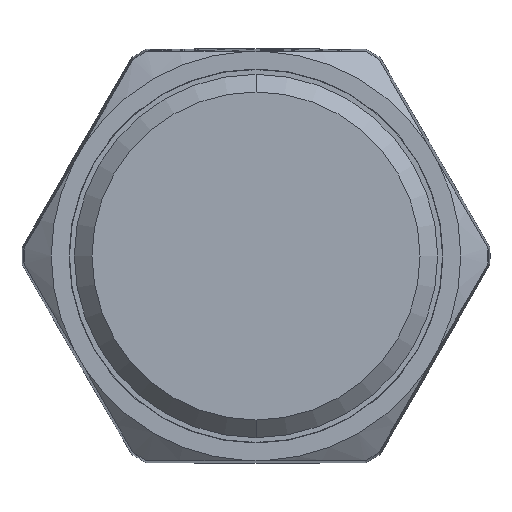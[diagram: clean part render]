
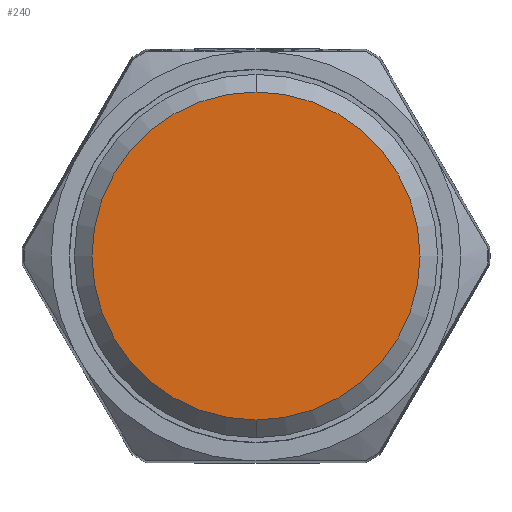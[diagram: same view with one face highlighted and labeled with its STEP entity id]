
A CAD part, front view. The second image highlights one B-rep face of the part: STEP entity #240.
In plain terms, the highlighted planar face has unit normal (0, -1, 0).
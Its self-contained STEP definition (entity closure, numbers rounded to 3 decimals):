
#240 = ADVANCED_FACE ( 'NONE', ( #3497 ), #3498, .F. ) ;
#371 = ORIENTED_EDGE ( 'NONE', *, *, #3318, .T. ) ;
#419 = EDGE_LOOP ( 'NONE', ( #371, #1752 ) ) ;
#933 = VERTEX_POINT ( 'NONE', #2941 ) ;
#951 = VERTEX_POINT ( 'NONE', #3070 ) ;
#1044 = EDGE_CURVE ( 'NONE', #951, #933, #3364, .T. ) ;
#1451 = CIRCLE ( 'NONE', #1452, 7.523 ) ;
#1452 = AXIS2_PLACEMENT_3D ( 'NONE', #1453, #1454, #1455 ) ;
#1453 = CARTESIAN_POINT ( 'NONE',  ( 0., 0., 0. ) ) ;
#1454 = DIRECTION ( 'NONE',  ( 0., -1., 0. ) ) ;
#1455 = DIRECTION ( 'NONE',  ( 0., 0., 1. ) ) ;
#1752 = ORIENTED_EDGE ( 'NONE', *, *, #1044, .T. ) ;
#2941 = CARTESIAN_POINT ( 'NONE',  ( 0., 0., 7.523 ) ) ;
#3070 = CARTESIAN_POINT ( 'NONE',  ( 0., 0., -7.523 ) ) ;
#3318 = EDGE_CURVE ( 'NONE', #933, #951, #1451, .T. ) ;
#3364 = CIRCLE ( 'NONE', #3365, 7.523 ) ;
#3365 = AXIS2_PLACEMENT_3D ( 'NONE', #3366, #3367, #3368 ) ;
#3366 = CARTESIAN_POINT ( 'NONE',  ( 0., 0., 0. ) ) ;
#3367 = DIRECTION ( 'NONE',  ( 0., -1., 0. ) ) ;
#3368 = DIRECTION ( 'NONE',  ( 0., 0., 1. ) ) ;
#3497 = FACE_OUTER_BOUND ( 'NONE', #419, .T. ) ;
#3498 = PLANE ( 'NONE',  #3499 ) ;
#3499 = AXIS2_PLACEMENT_3D ( 'NONE', #3500, #3501, #3502 ) ;
#3500 = CARTESIAN_POINT ( 'NONE',  ( 0., 0., 0. ) ) ;
#3501 = DIRECTION ( 'NONE',  ( 0., 1., 0. ) ) ;
#3502 = DIRECTION ( 'NONE',  ( 0., 0., 1. ) ) ;
